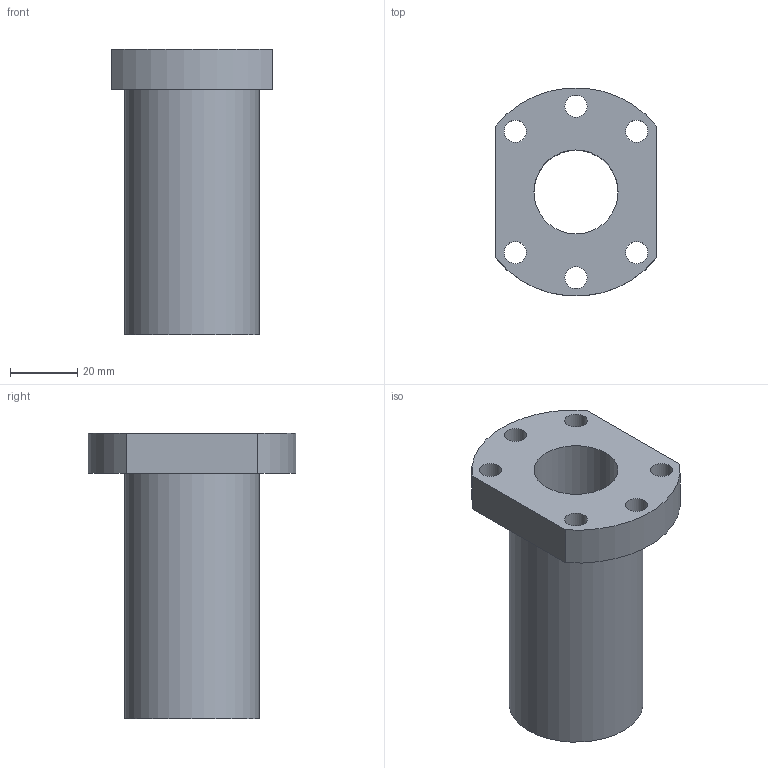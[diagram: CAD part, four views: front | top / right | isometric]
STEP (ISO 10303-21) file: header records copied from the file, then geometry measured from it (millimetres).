
FILE_DESCRIPTION(/* description */ (''),/* implementation_level */ '2;1');
FILE_NAME(/* name */ 'C:\Users\Workstation\ownCloud\Kamp und Kötter\Artikel\_CAD-Dateien\KUS2510_Spindelmutter.stp',/* time_stamp */ '2019-02-17T11:24:14+01:00',/* author */ ('Workstation'),/* organization */ (''),/* preprocessor_version */ 'ST-DEVELOPER v17',/* originating_system */ 'Autodesk Inventor 2019',/* authorisation */ '');
FILE_SCHEMA (('AUTOMOTIVE_DESIGN { 1 0 10303 214 3 1 1 }'));
Length unit declared in the file: millimetre
Products named in the file (1): KUS2510_Spindelmutter
Bounding box: 48 x 61.8 x 85 mm (x, y, z)
Volume: 79270.7 mm3; surface area: 23496.6 mm2
Topology: 1 solids, 1 shells, 15 faces, 42 edges, 30 vertices
Faces by surface type: cylinder 10, plane 5
Full cylindrical faces by diameter (mm): 6.6 x6, 25 x1, 40 x1
Entity records: 577 total; most frequent: DIRECTION 100, CARTESIAN_POINT 88, ORIENTED_EDGE 84, EDGE_CURVE 42, AXIS2_PLACEMENT_3D 42, EDGE_LOOP 30, VERTEX_POINT 30, CIRCLE 26
